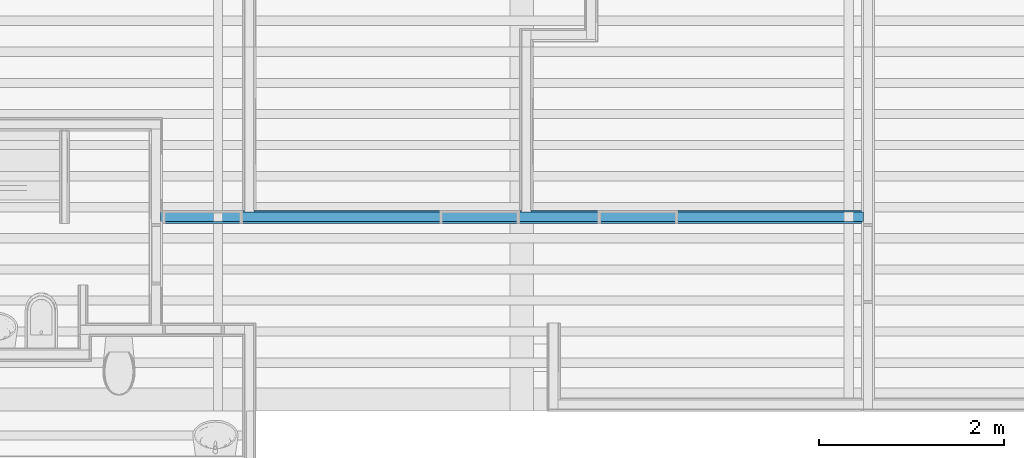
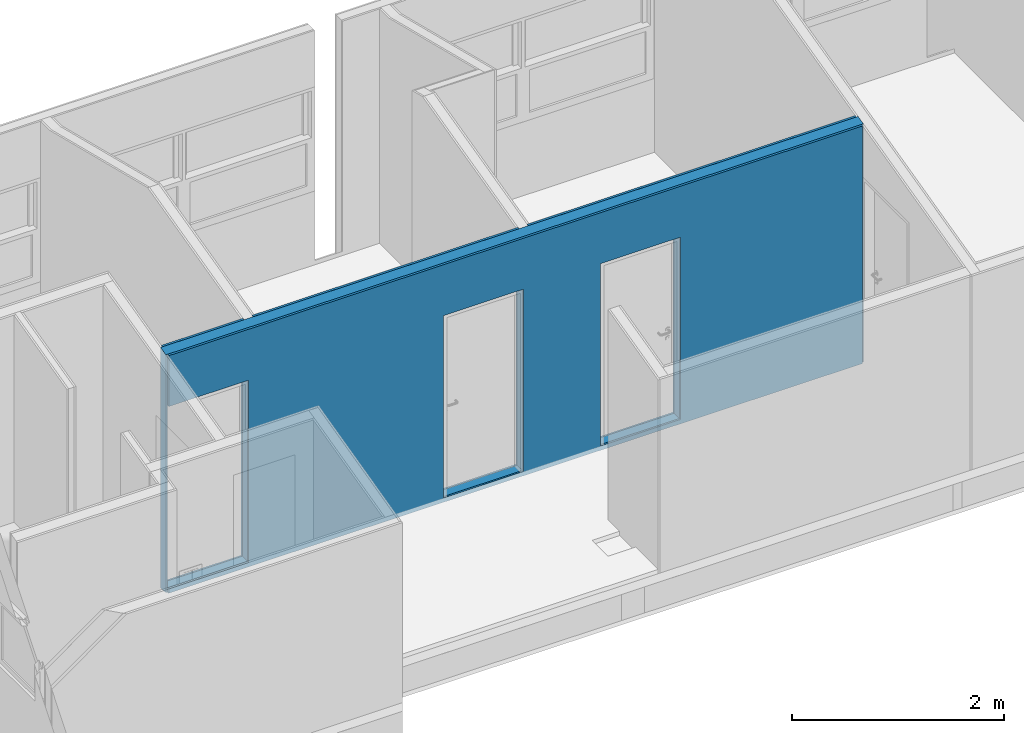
# One storey, part 3 of 13: 3 building element parts, 3 openings, 1 element without a shape of its own.
"""IFC2X3 building model written with IfcOpenShell, lengths in millimetres."""

from ifc_helpers import new_model, entity, si_unit, converted_unit, derived_unit, money_unit, direction, frame, origin_with_axes, origin_2d_with_axis, place, context, subcontext, project, spatial, polyline, rectangle, outline, extrude, boolean, faceted_brep, material, type_object, element, aggregate, save


model = new_model("IFC2X3")

# Units and contexts
model_context = context("Model", 3, precision=0.01, world=origin_with_axes(), true_north=direction((0.293984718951, 0.955810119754)))
body_context = subcontext(model_context, "Body", "Model", "MODEL_VIEW")
ifc_project = project(units=[si_unit("LENGTHUNIT", "METRE", prefix="MILLI"), si_unit("AREAUNIT", "SQUARE_METRE"), si_unit("VOLUMEUNIT", "CUBIC_METRE"), converted_unit("PLANEANGLEUNIT", "DEGREE", entity("IfcPlaneAngleMeasure", 0.0174532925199), si_unit("PLANEANGLEUNIT", "RADIAN"), dimensions=[0, 0, 0, 0, 0, 0, 0]), si_unit("SOLIDANGLEUNIT", "STERADIAN"), money_unit("USD"), converted_unit("TIMEUNIT", "Year", entity("IfcTimeMeasure", 31556926.0), si_unit("TIMEUNIT", "SECOND"), dimensions=[0, 0, 1, 0, 0, 0, 0]), si_unit("MASSUNIT", "GRAM", prefix="KILO"), si_unit("THERMODYNAMICTEMPERATUREUNIT", "DEGREE_CELSIUS"), si_unit("LUMINOUSINTENSITYUNIT", "LUMEN"), si_unit("ENERGYUNIT", "JOULE", prefix="MEGA"), derived_unit("THERMALCONDUCTANCEUNIT", [(si_unit("POWERUNIT", "WATT"), 1), (si_unit("LENGTHUNIT", "METRE"), -1), (si_unit("THERMODYNAMICTEMPERATUREUNIT", "KELVIN"), -1)]), derived_unit("SPECIFICHEATCAPACITYUNIT", [(si_unit("ENERGYUNIT", "JOULE"), 1), (si_unit("MASSUNIT", "GRAM", prefix="KILO"), -1), (si_unit("THERMODYNAMICTEMPERATUREUNIT", "KELVIN"), -1)]), derived_unit("MASSDENSITYUNIT", [(si_unit("MASSUNIT", "GRAM", prefix="KILO"), 1), (si_unit("VOLUMEUNIT", "CUBIC_METRE"), -1)])], contexts=[model_context])

# Site, building, storey
site_placement = place(None, origin_with_axes())
site = spatial("IfcSite", under=ifc_project, at=site_placement, Name="Local", CompositionType="ELEMENT")
building_placement = place(site_placement, origin_with_axes())
building = spatial("IfcBuilding", under=site, at=building_placement, Name="Construção", CompositionType="ELEMENT")
storey_placement = place(building_placement, frame((0.0, 0.0, 3050.0), z_axis=(0.0, 0.0, 1.0), x_axis=(1.0, 0.0, 0.0)))
storey = spatial("IfcBuildingStorey", under=building, at=storey_placement, Name="Primeiro Pavimento", CompositionType="ELEMENT", Elevation=3050.0)

# Wall, openings, building element parts
wall_type = type_object("IfcWallType", Name="Alvenaria Tijolo Maciço com Revestimento 14cm 140", PredefinedType="NOTDEFINED")
wall_placement = place(storey_placement, frame((9749.64507267, 8950.63219788, 0.0), z_axis=(0.0, 0.0, 1.0), x_axis=(1.0, 0.0, 0.0)))
wall = element("IfcWall", 1, at=wall_placement, inside=storey, type_object=wall_type, Name="Parede")
opening_1_placement = place(wall_placement, frame((504.999989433, 0.0, 50.0), z_axis=(0.0, 0.0, 1.0), x_axis=(1.0, 0.0, 0.0)))
element("IfcOpeningElement", 2, at=opening_1_placement, cuts=wall, Name="P04", context=body_context, shape_type="SweptSolid", body=[
    extrude(rectangle(XDim=870.0, YDim=2100.0, at=origin_2d_with_axis()), frame((0.0, -140.0, 1050.0), z_axis=(0.0, 1.0, 0.0), x_axis=(1.0, 0.0, 0.0)), (0.0, 0.0, 1.0), 420.0),
])
opening_2_placement = place(wall_placement, frame((5210.00000003, 0.0, 50.0), z_axis=(0.0, 0.0, 1.0), x_axis=(1.0, 0.0, 0.0)))
element("IfcOpeningElement", 3, at=opening_2_placement, cuts=wall, Name="P06", context=body_context, shape_type="SweptSolid", body=[
    extrude(rectangle(XDim=870.0, YDim=2100.0, at=origin_2d_with_axis()), frame((0.0, -140.0, 1050.0), z_axis=(0.0, -1.0, 0.0), x_axis=(-1.0, 0.0, 0.0)), (0.0, 0.0, -1.0), 420.0),
])
opening_3_placement = place(wall_placement, frame((3500.00000003, 0.0, 50.0), z_axis=(0.0, 0.0, 1.0), x_axis=(1.0, 0.0, 0.0)))
element("IfcOpeningElement", 4, at=opening_3_placement, cuts=wall, Name="P08", context=body_context, shape_type="SweptSolid", body=[
    extrude(rectangle(XDim=870.0, YDim=2100.0, at=origin_2d_with_axis()), frame((0.0, -140.0, 1050.0), z_axis=(0.0, 1.0, 0.0), x_axis=(1.0, 0.0, 0.0)), (0.0, 0.0, 1.0), 420.0),
])
ifc_material_1 = material(Name="Reboco (1)")
building_element_part_1_placement = place(wall_placement, origin_with_axes())
building_element_part_1 = element("IfcBuildingElementPart", 5, at=building_element_part_1_placement, material=ifc_material_1, Name="Reboco (1)", context=body_context, shape_type="CSG", body=[
    boolean("DIFFERENCE", boolean("DIFFERENCE", boolean("DIFFERENCE", extrude(outline(polyline([(-70.0, -70.0), (7770.00000003, -70.0), (7770.00000003, -50.0), (-70.0, -50.0), (-70.0, -70.0)])), origin_with_axes(), (0.0, 0.0, 1.0), 3211.87314734), faceted_brep([(70.0, -50.0, 2741.47241189), (70.0, -50.0, 0.0), (-70.0, -50.0, 0.0), (-70.0, -50.0, 3211.87314734), (7770.00000003, -50.0, 3211.87314734), (7770.00000003, -50.0, 0.0), (7630.00000003, -50.0, 0.0), (7630.00000003, -50.0, 2741.47241189), (70.0, -70.0, 2736.48585183), (70.0, -70.0, 0.0), (-70.0, -70.0, 0.0), (-70.0, -70.0, 3211.87314734), (7770.00000003, -70.0, 3211.87314734), (7770.00000003, -70.0, 0.0), (7630.00000003, -70.0, 0.0), (7630.00000003, -70.0, 2736.48585183)], [[[0, 1, 2, 3, 4, 5, 6, 7]], [[1, 0, 8, 9]], [[1, 9, 10, 2]], [[3, 2, 10, 11]], [[3, 11, 12, 4]], [[12, 13, 5, 4]], [[14, 6, 5, 13]], [[7, 6, 14, 15]], [[15, 8, 0, 7]], [[15, 14, 13, 12, 11, 10, 9, 8]]])), faceted_brep([(50.0, 50.0, 2766.40521217), (50.0, 50.0, 0.0), (-70.0, 50.0, 0.0), (-70.0, 50.0, 3211.87314734), (7770.00000003, 50.0, 3211.87314734), (7770.00000003, 50.0, 0.0), (7650.00000003, 50.0, 0.0), (7650.00000003, 50.0, 2766.40521217), (50.0, -50.0, 2741.47241189), (50.0, -50.0, 0.0), (-70.0, -50.0, 0.0), (-70.0, -50.0, 3211.87314734), (7770.00000003, -50.0, 3211.87314734), (7770.00000003, -50.0, 0.0), (7650.00000003, -50.0, 0.0), (7650.00000003, -50.0, 2741.47241189)], [[[0, 1, 2, 3, 4, 5, 6, 7]], [[1, 0, 8, 9]], [[1, 9, 10, 2]], [[3, 2, 10, 11]], [[3, 11, 12, 4]], [[12, 13, 5, 4]], [[14, 6, 5, 13]], [[7, 6, 14, 15]], [[7, 15, 8, 0]], [[15, 14, 13, 12, 11, 10, 9, 8]]])), faceted_brep([(4055.00000003, 70.0, 2771.39177223), (4055.00000003, 70.0, 0.0), (3955.00000003, 70.0, 0.0), (3955.00000003, 70.0, 2771.39177223), (1060.00000001, 70.0, 2771.39177223), (1060.00000001, 70.0, 0.0), (960.000000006, 70.0, 0.0), (960.000000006, 70.0, 2771.39177223), (70.0, 70.0, 2771.39177223), (70.0, 70.0, 0.0), (-70.0, 70.0, 0.0), (-70.0, 70.0, 3211.87314734), (7770.00000003, 70.0, 3211.87314734), (7770.00000003, 70.0, 0.0), (7630.00000003, 70.0, 0.0), (7630.00000003, 70.0, 2771.39177223), (4055.00000003, 50.0, 2766.40521217), (4055.00000003, 50.0, 0.0), (3955.00000003, 50.0, 0.0), (3955.00000003, 50.0, 2766.40521217), (1060.00000001, 50.0, 2766.40521217), (1060.00000001, 50.0, 0.0), (960.000000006, 50.0, 0.0), (960.000000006, 50.0, 2766.40521217), (70.0, 50.0, 2766.40521217), (70.0, 50.0, 0.0), (-70.0, 50.0, 0.0), (-70.0, 50.0, 3211.87314734), (7770.00000003, 50.0, 3211.87314734), (7770.00000003, 50.0, 0.0), (7630.00000003, 50.0, 0.0), (7630.00000003, 50.0, 2766.40521217)], [[[0, 1, 2, 3, 4, 5, 6, 7, 8, 9, 10, 11, 12, 13, 14, 15]], [[1, 0, 16, 17]], [[1, 17, 18, 2]], [[3, 2, 18, 19]], [[4, 3, 19, 20]], [[5, 4, 20, 21]], [[5, 21, 22, 6]], [[7, 6, 22, 23]], [[8, 7, 23, 24]], [[9, 8, 24, 25]], [[9, 25, 26, 10]], [[11, 10, 26, 27]], [[11, 27, 28, 12]], [[28, 29, 13, 12]], [[30, 14, 13, 29]], [[15, 14, 30, 31]], [[0, 15, 31, 16]], [[31, 30, 29, 28, 27, 26, 25, 24, 23, 22, 21, 20, 19, 18, 17, 16]]])),
])
ifc_material_2 = material(Name="Tijolo - Estrutural (1)")
building_element_part_2_placement = place(wall_placement, origin_with_axes())
building_element_part_2 = element("IfcBuildingElementPart", 6, at=building_element_part_2_placement, material=ifc_material_2, Name="Tijolo - Estrutural (1)", context=body_context, shape_type="CSG", body=[
    boolean("DIFFERENCE", boolean("DIFFERENCE", boolean("DIFFERENCE", extrude(outline(polyline([(-70.0, -50.0), (7770.00000003, -50.0), (7770.00000003, 50.0), (-70.0, 50.0), (-70.0, -50.0)])), origin_with_axes(), (0.0, 0.0, 1.0), 3211.87314734), faceted_brep([(70.0, -50.0, 2741.47241189), (70.0, -50.0, 0.0), (-70.0, -50.0, 0.0), (-70.0, -50.0, 3211.87314734), (7770.00000003, -50.0, 3211.87314734), (7770.00000003, -50.0, 0.0), (7630.00000003, -50.0, 0.0), (7630.00000003, -50.0, 2741.47241189), (70.0, -70.0, 2736.48585183), (70.0, -70.0, 0.0), (-70.0, -70.0, 0.0), (-70.0, -70.0, 3211.87314734), (7770.00000003, -70.0, 3211.87314734), (7770.00000003, -70.0, 0.0), (7630.00000003, -70.0, 0.0), (7630.00000003, -70.0, 2736.48585183)], [[[0, 1, 2, 3, 4, 5, 6, 7]], [[1, 0, 8, 9]], [[1, 9, 10, 2]], [[3, 2, 10, 11]], [[3, 11, 12, 4]], [[12, 13, 5, 4]], [[14, 6, 5, 13]], [[7, 6, 14, 15]], [[15, 8, 0, 7]], [[15, 14, 13, 12, 11, 10, 9, 8]]])), faceted_brep([(50.0, 50.0, 2766.40521217), (50.0, 50.0, 0.0), (-70.0, 50.0, 0.0), (-70.0, 50.0, 3211.87314734), (7770.00000003, 50.0, 3211.87314734), (7770.00000003, 50.0, 0.0), (7650.00000003, 50.0, 0.0), (7650.00000003, 50.0, 2766.40521217), (50.0, -50.0, 2741.47241189), (50.0, -50.0, 0.0), (-70.0, -50.0, 0.0), (-70.0, -50.0, 3211.87314734), (7770.00000003, -50.0, 3211.87314734), (7770.00000003, -50.0, 0.0), (7650.00000003, -50.0, 0.0), (7650.00000003, -50.0, 2741.47241189)], [[[0, 1, 2, 3, 4, 5, 6, 7]], [[1, 0, 8, 9]], [[1, 9, 10, 2]], [[3, 2, 10, 11]], [[3, 11, 12, 4]], [[12, 13, 5, 4]], [[14, 6, 5, 13]], [[7, 6, 14, 15]], [[7, 15, 8, 0]], [[15, 14, 13, 12, 11, 10, 9, 8]]])), faceted_brep([(4055.00000003, 70.0, 2771.39177223), (4055.00000003, 70.0, 0.0), (3955.00000003, 70.0, 0.0), (3955.00000003, 70.0, 2771.39177223), (1060.00000001, 70.0, 2771.39177223), (1060.00000001, 70.0, 0.0), (960.000000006, 70.0, 0.0), (960.000000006, 70.0, 2771.39177223), (70.0, 70.0, 2771.39177223), (70.0, 70.0, 0.0), (-70.0, 70.0, 0.0), (-70.0, 70.0, 3211.87314734), (7770.00000003, 70.0, 3211.87314734), (7770.00000003, 70.0, 0.0), (7630.00000003, 70.0, 0.0), (7630.00000003, 70.0, 2771.39177223), (4055.00000003, 50.0, 2766.40521217), (4055.00000003, 50.0, 0.0), (3955.00000003, 50.0, 0.0), (3955.00000003, 50.0, 2766.40521217), (1060.00000001, 50.0, 2766.40521217), (1060.00000001, 50.0, 0.0), (960.000000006, 50.0, 0.0), (960.000000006, 50.0, 2766.40521217), (70.0, 50.0, 2766.40521217), (70.0, 50.0, 0.0), (-70.0, 50.0, 0.0), (-70.0, 50.0, 3211.87314734), (7770.00000003, 50.0, 3211.87314734), (7770.00000003, 50.0, 0.0), (7630.00000003, 50.0, 0.0), (7630.00000003, 50.0, 2766.40521217)], [[[0, 1, 2, 3, 4, 5, 6, 7, 8, 9, 10, 11, 12, 13, 14, 15]], [[1, 0, 16, 17]], [[1, 17, 18, 2]], [[3, 2, 18, 19]], [[4, 3, 19, 20]], [[5, 4, 20, 21]], [[5, 21, 22, 6]], [[7, 6, 22, 23]], [[8, 7, 23, 24]], [[9, 8, 24, 25]], [[9, 25, 26, 10]], [[11, 10, 26, 27]], [[11, 27, 28, 12]], [[28, 29, 13, 12]], [[30, 14, 13, 29]], [[15, 14, 30, 31]], [[0, 15, 31, 16]], [[31, 30, 29, 28, 27, 26, 25, 24, 23, 22, 21, 20, 19, 18, 17, 16]]])),
])
building_element_part_3_placement = place(wall_placement, origin_with_axes())
building_element_part_3 = element("IfcBuildingElementPart", 7, at=building_element_part_3_placement, material=ifc_material_1, Name="Reboco (1)", context=body_context, shape_type="CSG", body=[
    boolean("DIFFERENCE", boolean("DIFFERENCE", boolean("DIFFERENCE", extrude(outline(polyline([(-70.0, 50.0), (7770.00000003, 50.0), (7770.00000003, 70.0), (-70.0, 70.0), (-70.0, 50.0)])), origin_with_axes(), (0.0, 0.0, 1.0), 3211.87314734), faceted_brep([(70.0, -50.0, 2741.47241189), (70.0, -50.0, 0.0), (-70.0, -50.0, 0.0), (-70.0, -50.0, 3211.87314734), (7770.00000003, -50.0, 3211.87314734), (7770.00000003, -50.0, 0.0), (7630.00000003, -50.0, 0.0), (7630.00000003, -50.0, 2741.47241189), (70.0, -70.0, 2736.48585183), (70.0, -70.0, 0.0), (-70.0, -70.0, 0.0), (-70.0, -70.0, 3211.87314734), (7770.00000003, -70.0, 3211.87314734), (7770.00000003, -70.0, 0.0), (7630.00000003, -70.0, 0.0), (7630.00000003, -70.0, 2736.48585183)], [[[0, 1, 2, 3, 4, 5, 6, 7]], [[1, 0, 8, 9]], [[1, 9, 10, 2]], [[3, 2, 10, 11]], [[3, 11, 12, 4]], [[12, 13, 5, 4]], [[14, 6, 5, 13]], [[7, 6, 14, 15]], [[15, 8, 0, 7]], [[15, 14, 13, 12, 11, 10, 9, 8]]])), faceted_brep([(50.0, 50.0, 2766.40521217), (50.0, 50.0, 0.0), (-70.0, 50.0, 0.0), (-70.0, 50.0, 3211.87314734), (7770.00000003, 50.0, 3211.87314734), (7770.00000003, 50.0, 0.0), (7650.00000003, 50.0, 0.0), (7650.00000003, 50.0, 2766.40521217), (50.0, -50.0, 2741.47241189), (50.0, -50.0, 0.0), (-70.0, -50.0, 0.0), (-70.0, -50.0, 3211.87314734), (7770.00000003, -50.0, 3211.87314734), (7770.00000003, -50.0, 0.0), (7650.00000003, -50.0, 0.0), (7650.00000003, -50.0, 2741.47241189)], [[[0, 1, 2, 3, 4, 5, 6, 7]], [[1, 0, 8, 9]], [[1, 9, 10, 2]], [[3, 2, 10, 11]], [[3, 11, 12, 4]], [[12, 13, 5, 4]], [[14, 6, 5, 13]], [[7, 6, 14, 15]], [[7, 15, 8, 0]], [[15, 14, 13, 12, 11, 10, 9, 8]]])), faceted_brep([(4055.00000003, 70.0, 2771.39177223), (4055.00000003, 70.0, 0.0), (3955.00000003, 70.0, 0.0), (3955.00000003, 70.0, 2771.39177223), (1060.00000001, 70.0, 2771.39177223), (1060.00000001, 70.0, 0.0), (960.000000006, 70.0, 0.0), (960.000000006, 70.0, 2771.39177223), (70.0, 70.0, 2771.39177223), (70.0, 70.0, 0.0), (-70.0, 70.0, 0.0), (-70.0, 70.0, 3211.87314734), (7770.00000003, 70.0, 3211.87314734), (7770.00000003, 70.0, 0.0), (7630.00000003, 70.0, 0.0), (7630.00000003, 70.0, 2771.39177223), (4055.00000003, 50.0, 2766.40521217), (4055.00000003, 50.0, 0.0), (3955.00000003, 50.0, 0.0), (3955.00000003, 50.0, 2766.40521217), (1060.00000001, 50.0, 2766.40521217), (1060.00000001, 50.0, 0.0), (960.000000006, 50.0, 0.0), (960.000000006, 50.0, 2766.40521217), (70.0, 50.0, 2766.40521217), (70.0, 50.0, 0.0), (-70.0, 50.0, 0.0), (-70.0, 50.0, 3211.87314734), (7770.00000003, 50.0, 3211.87314734), (7770.00000003, 50.0, 0.0), (7630.00000003, 50.0, 0.0), (7630.00000003, 50.0, 2766.40521217)], [[[0, 1, 2, 3, 4, 5, 6, 7, 8, 9, 10, 11, 12, 13, 14, 15]], [[1, 0, 16, 17]], [[1, 17, 18, 2]], [[3, 2, 18, 19]], [[4, 3, 19, 20]], [[5, 4, 20, 21]], [[5, 21, 22, 6]], [[7, 6, 22, 23]], [[8, 7, 23, 24]], [[9, 8, 24, 25]], [[9, 25, 26, 10]], [[11, 10, 26, 27]], [[11, 27, 28, 12]], [[28, 29, 13, 12]], [[30, 14, 13, 29]], [[15, 14, 30, 31]], [[0, 15, 31, 16]], [[31, 30, 29, 28, 27, 26, 25, 24, 23, 22, 21, 20, 19, 18, 17, 16]]])),
])
aggregate(wall, [building_element_part_1, building_element_part_2, building_element_part_3])

save(model, "model.ifc")
